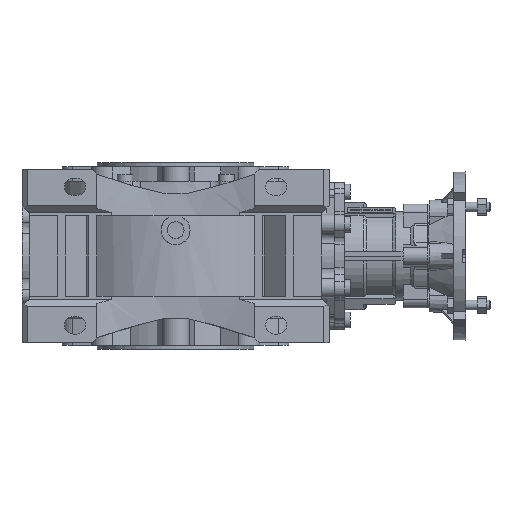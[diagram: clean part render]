
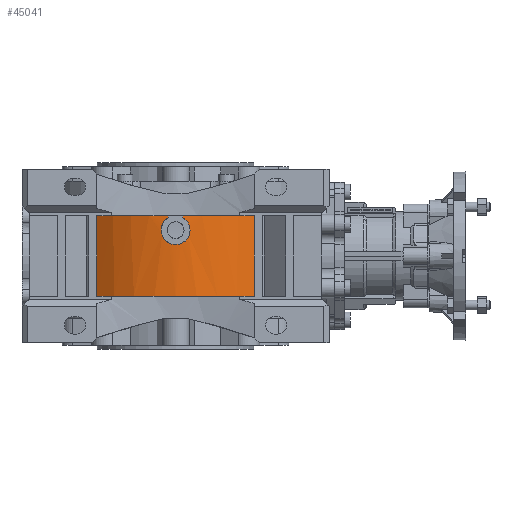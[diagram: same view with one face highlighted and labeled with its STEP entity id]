
A CAD part, front view. The second image highlights one B-rep face of the part: STEP entity #45041.
In plain terms, the highlighted cylindrical face has radius 107.7 mm (diameter 215.4 mm), a partial arc.
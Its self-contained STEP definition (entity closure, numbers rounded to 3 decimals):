
#1483=B_SPLINE_CURVE_WITH_KNOTS('',3,(#64091,#64092,#64093,#64094,#64095,
#64096,#64097,#64098,#64099,#64100,#64101,#64102,#64103,#64104,#64105,#64106,
#64107),.UNSPECIFIED.,.F.,.F.,(4,1,1,1,1,1,1,1,1,1,1,1,1,1,4),(0.,0.004,
0.008,0.012,0.016,0.02,
0.023,0.027,0.031,0.035,
0.039,0.047,0.051,0.055,
0.063),.UNSPECIFIED.);
#2021=CIRCLE('',#47186,107.7);
#2025=CIRCLE('',#47192,107.7);
#2027=CIRCLE('',#47194,107.7);
#5738=ORIENTED_EDGE('',*,*,#14137,.F.);
#5739=ORIENTED_EDGE('',*,*,#14670,.T.);
#5740=ORIENTED_EDGE('',*,*,#14671,.T.);
#5741=ORIENTED_EDGE('',*,*,#14672,.T.);
#5742=ORIENTED_EDGE('',*,*,#14143,.F.);
#5743=ORIENTED_EDGE('',*,*,#14148,.T.);
#5744=ORIENTED_EDGE('',*,*,#14128,.F.);
#5745=ORIENTED_EDGE('',*,*,#14146,.T.);
#14128=EDGE_CURVE('',#18817,#18818,#2021,.F.);
#14137=EDGE_CURVE('',#18824,#18826,#2025,.F.);
#14143=EDGE_CURVE('',#18831,#18832,#2027,.F.);
#14146=EDGE_CURVE('',#18817,#18826,#21717,.T.);
#14148=EDGE_CURVE('',#18831,#18818,#21719,.F.);
#14670=EDGE_CURVE('',#18824,#19181,#22086,.F.);
#14671=EDGE_CURVE('',#19181,#19182,#1483,.T.);
#14672=EDGE_CURVE('',#19182,#18832,#22087,.T.);
#18817=VERTEX_POINT('',#63010);
#18818=VERTEX_POINT('',#63012);
#18824=VERTEX_POINT('',#63028);
#18826=VERTEX_POINT('',#63031);
#18831=VERTEX_POINT('',#63041);
#18832=VERTEX_POINT('',#63043);
#19181=VERTEX_POINT('',#64090);
#19182=VERTEX_POINT('',#64108);
#21717=LINE('',#63048,#24481);
#21719=LINE('',#63051,#24483);
#22086=LINE('',#64089,#24850);
#22087=LINE('',#64109,#24851);
#24481=VECTOR('',#51895,1000.);
#24483=VECTOR('',#51899,1000.);
#24850=VECTOR('',#52878,1000.);
#24851=VECTOR('',#52879,1000.);
#27163=EDGE_LOOP('',(#5738,#5739,#5740,#5741,#5742,#5743,#5744,#5745));
#29356=FACE_BOUND('',#27163,.T.);
#31209=CYLINDRICAL_SURFACE('',#47502,107.7);
#45041=ADVANCED_FACE('',(#29356),#31209,.T.);
#47186=AXIS2_PLACEMENT_3D('',#63011,#51864,#51865);
#47192=AXIS2_PLACEMENT_3D('',#63030,#51881,#51882);
#47194=AXIS2_PLACEMENT_3D('',#63042,#51889,#51890);
#47502=AXIS2_PLACEMENT_3D('',#64088,#52876,#52877);
#51864=DIRECTION('',(0.,0.,-1.));
#51865=DIRECTION('',(-1.,0.,0.));
#51881=DIRECTION('',(0.,0.,1.));
#51882=DIRECTION('',(1.,0.,0.));
#51889=DIRECTION('',(0.,0.,1.));
#51890=DIRECTION('',(1.,0.,0.));
#51895=DIRECTION('',(0.,0.,-1.));
#51899=DIRECTION('',(0.,0.,-1.));
#52876=DIRECTION('',(0.,0.,-1.));
#52877=DIRECTION('',(-1.,0.,0.));
#52878=DIRECTION('',(0.,0.,-1.));
#52879=DIRECTION('',(0.,0.,-1.));
#63010=CARTESIAN_POINT('',(-65.5,-85.493,33.5));
#63011=CARTESIAN_POINT('',(0.,0.,33.5));
#63012=CARTESIAN_POINT('',(65.5,-85.493,33.5));
#63028=CARTESIAN_POINT('',(-6.,-107.533,-33.5));
#63030=CARTESIAN_POINT('',(0.,0.,-33.5));
#63031=CARTESIAN_POINT('',(-65.5,-85.493,-33.5));
#63041=CARTESIAN_POINT('',(65.5,-85.493,-33.5));
#63042=CARTESIAN_POINT('',(0.,0.,-33.5));
#63043=CARTESIAN_POINT('',(6.,-107.533,-33.5));
#63048=CARTESIAN_POINT('',(-65.5,-85.493,40.));
#63051=CARTESIAN_POINT('',(65.5,-85.493,40.));
#64088=CARTESIAN_POINT('',(0.,0.,40.));
#64089=CARTESIAN_POINT('',(-6.,-107.533,40.));
#64090=CARTESIAN_POINT('',(-6.,-107.533,-31.892));
#64091=CARTESIAN_POINT('',(-6.,-107.533,-31.892));
#64092=CARTESIAN_POINT('',(-7.144,-107.469,-31.232));
#64093=CARTESIAN_POINT('',(-9.176,-107.319,-29.561));
#64094=CARTESIAN_POINT('',(-11.284,-107.111,-26.182));
#64095=CARTESIAN_POINT('',(-12.189,-107.008,-22.308));
#64096=CARTESIAN_POINT('',(-11.802,-107.053,-18.344));
#64097=CARTESIAN_POINT('',(-10.161,-107.227,-14.719));
#64098=CARTESIAN_POINT('',(-7.445,-107.458,-11.816));
#64099=CARTESIAN_POINT('',(-3.94,-107.65,-9.937));
#64100=CARTESIAN_POINT('',(-0.012,-107.725,-9.283));
#64101=CARTESIAN_POINT('',(3.917,-107.651,-9.93));
#64102=CARTESIAN_POINT('',(8.603,-107.394,-12.423));
#64103=CARTESIAN_POINT('',(11.669,-107.068,-16.998));
#64104=CARTESIAN_POINT('',(12.19,-107.008,-22.286));
#64105=CARTESIAN_POINT('',(10.992,-107.144,-27.461));
#64106=CARTESIAN_POINT('',(8.288,-107.405,-30.572));
#64107=CARTESIAN_POINT('',(6.,-107.533,-31.892));
#64108=CARTESIAN_POINT('',(6.,-107.533,-31.892));
#64109=CARTESIAN_POINT('',(6.,-107.533,40.));
